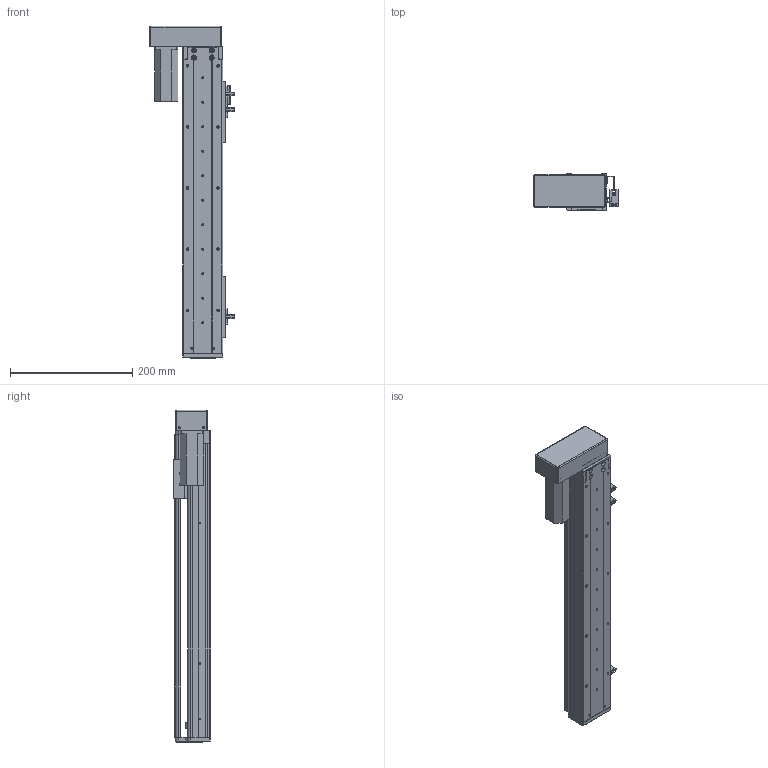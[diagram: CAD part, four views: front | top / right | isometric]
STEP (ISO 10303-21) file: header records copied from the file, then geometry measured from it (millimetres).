
FILE_DESCRIPTION (( 'STEP AP203' ), '1' );
FILE_NAME ('RY60-L1210-300-LK.SLDASM_350.step', '2021-02-20T06:53:54', ( '盈信电脑' ), ( '东莞市道滘镇水果街19号' ), 'SwSTEP 2.0', 'SolidWorks 2012', '' );
FILE_SCHEMA (( 'CONFIG_CONTROL_DESIGN' ));
Length unit declared in the file: millimetre
Products named in the file (14): RY60酘衵殏萇儂欶; RY60-L1210-300-LK.SLDASM_350; 侂狟100W; RY60转折电机端支撑座; 滅袉蝶18-10; RY60左右折电机安装板-PCD46-M4; RY80俋离覜茼え; RY60綴裔啣; 672嫖萇羲壽假蚾釱; 覜茼ん672; RY60-300倰第裔啣-LK_350; RY60臏賑輸; RY60-300倰第菁釱-LK_350; RY60-300-MGW12絳寢-LK_350
Assembly tree (19 placements, depth 2):
  RY60-L1210-300-LK.SLDASM_350
    RY60-300倰第菁釱-LK_350
    RY60-300-MGW12絳寢-LK_350
    RY60臏賑輸
    RY60-300倰第裔啣-LK_350
    672嫖萇羲壽假蚾釱  x2
    RY60綴裔啣
    覜茼ん672  x3
    RY80俋离覜茼え
    滅袉蝶18-10  x4
    RY60转折电机端支撑座
    RY60左右折电机安装板-PCD46-M4
    侂狟100W
    RY60酘衵殏萇儂欶
Bounding box: 137.9 x 61 x 543 mm (x, y, z)
Volume: 860846 mm3; surface area: 415882.6 mm2
Topology: 19 solids, 19 shells, 1466 faces, 4055 edges, 2602 vertices
Faces by surface type: plane 722, cylinder 623, cone 104, bspline 17
Entity records: 43425 total; most frequent: CARTESIAN_POINT 9953, ORIENTED_EDGE 6686, DIRECTION 6581, EDGE_CURVE 3343, AXIS2_PLACEMENT_3D 2280, VERTEX_POINT 2182, LINE 2021, VECTOR 2021
